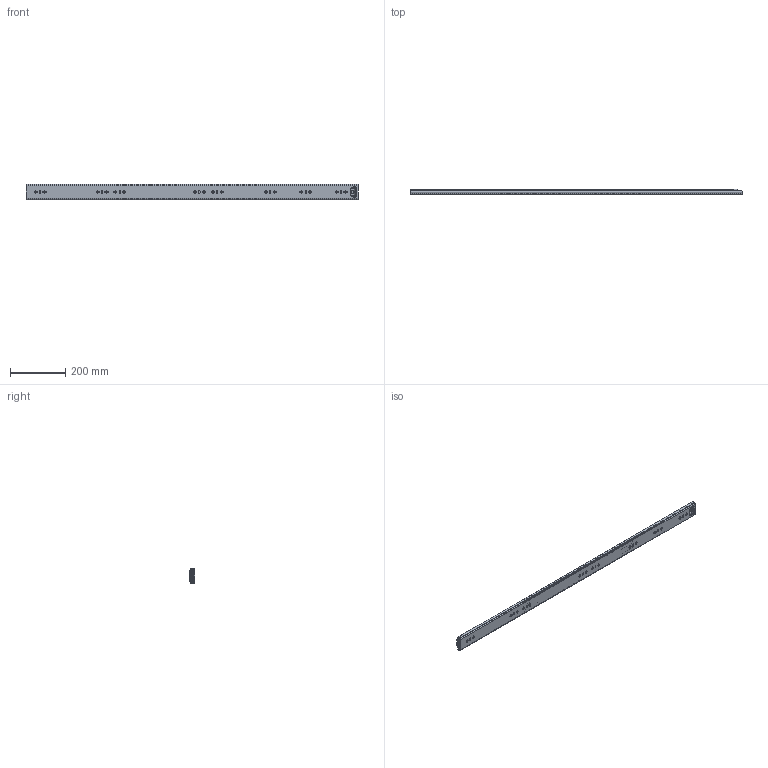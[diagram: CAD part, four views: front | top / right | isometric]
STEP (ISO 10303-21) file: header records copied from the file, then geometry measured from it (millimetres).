
FILE_DESCRIPTION((''),'2;1');
FILE_NAME('1057-02-48_ASM','2023-12-22T',('jishu015'),(''),'PRO/ENGINEER BY PARAMETRIC TECHNOLOGY CORPORATION, 2010280','PRO/ENGINEER BY PARAMETRIC TECHNOLOGY CORPORATION, 2010280','');
FILE_SCHEMA(('CONFIG_CONTROL_DESIGN'));
Products named in the file (14): KP-57-01WEIKE-122; 1057WEIJIAO________________; 1057DAZHUJIA-14GE11_; 1057-5-6GANZHU________________; 1057DAZHUJIA-14GE11__ASM; KP-57-01ZHONGGUI-22___; 57-ZHONGGUIDINWEIJIAN11_____; KP-57-01ZHONGGUI-22____ASM; 1057XIAOZHUJIA________________; 1057XIAOZHUJIA-14GE22____ASM; KP-57-01NEIGUI-1822_; 45TIEBACHA________________; KP-57-01NEIGUI-1822__ASM; 1057-02-48_ASM
Assembly tree (192 placements, depth 3):
  1057-02-48_ASM
    KP-57-01WEIKE-122
    1057WEIJIAO________________
    1057DAZHUJIA-14GE11__ASM
      1057DAZHUJIA-14GE11_
      1057-5-6GANZHU________________  x88
    KP-57-01ZHONGGUI-22____ASM
      KP-57-01ZHONGGUI-22___
      57-ZHONGGUIDINWEIJIAN11_____
    1057XIAOZHUJIA-14GE22____ASM
      1057XIAOZHUJIA________________
      1057-5-6GANZHU________________  x92
    KP-57-01NEIGUI-1822__ASM
      KP-57-01NEIGUI-1822_
      45TIEBACHA________________
Bounding box: 1200 x 19 x 57.67 mm (x, y, z)
Volume: 526004.9 mm3; surface area: 618785.9 mm2
Topology: 188 solids, 190 shells, 4707 faces, 13242 edges, 8184 vertices
Faces by surface type: plane 2159, cylinder 1948, sphere 368, cone 130, bspline 96, torus 6
Entity records: 146768 total; most frequent: CARTESIAN_POINT 29788, DIRECTION 24858, ORIENTED_EDGE 24308, EDGE_CURVE 12156, AXIS2_PLACEMENT_3D 8523, VERTEX_POINT 7826, VECTOR 7812, LINE 7812
